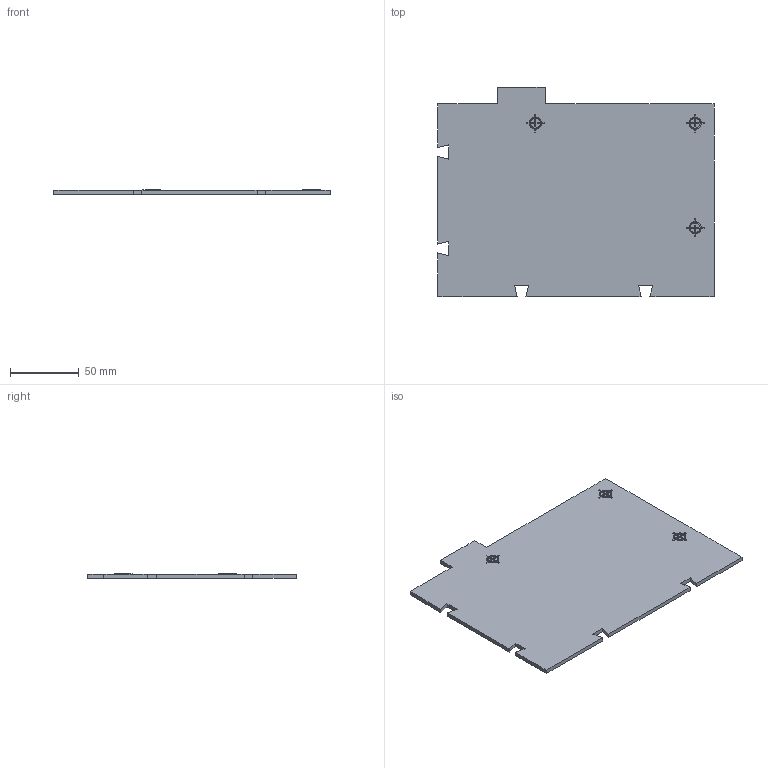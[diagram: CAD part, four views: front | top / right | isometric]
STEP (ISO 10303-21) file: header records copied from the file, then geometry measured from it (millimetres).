
FILE_DESCRIPTION(('q2_plate280_tile_RR'),'2;1');
FILE_NAME('q2_plate280_tile_RR.step','2026-11-05T00:00:00',('rayaanatif'),(''),'qs-cad','qs-cad','');
FILE_SCHEMA(('AUTOMOTIVE_DESIGN { 1 0 10303 214 1 1 1 1 }'));
Length unit declared in the file: millimetre
Products named in the file (1): q2_plate280_tile_RR
Bounding box: 201 x 152 x 3.4 mm (x, y, z)
Volume: 84737.6 mm3; surface area: 59185.2 mm2
Topology: 1 solids, 1 shells, 497 faces, 1773 edges, 1297 vertices
Faces by surface type: plane 497
Entity records: 17264 total; most frequent: ORIENTED_EDGE 3546, DIRECTION 2769, CARTESIAN_POINT 1795, VECTOR 1773, LINE 1773, EDGE_CURVE 1773, VERTEX_POINT 1297, EDGE_LOOP 516
